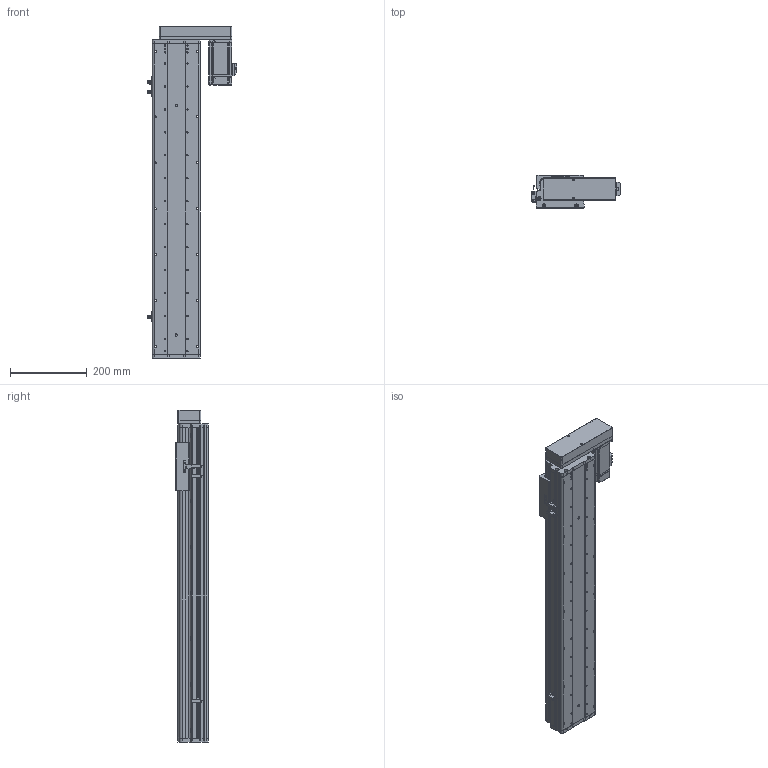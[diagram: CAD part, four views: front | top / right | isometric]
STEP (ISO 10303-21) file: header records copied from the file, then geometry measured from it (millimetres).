
FILE_DESCRIPTION (( 'STEP AP214' ), '1' );
FILE_NAME ('KSD125S-S600-MR-CM.STEP', '2017-10-21T08:58:19', ( '微软用户' ), ( '微软中国' ), 'SwSTEP 2.0', 'SolidWorks 2014', '' );
FILE_SCHEMA (( 'AUTOMOTIVE_DESIGN' ));
Length unit declared in the file: millimetre
Products named in the file (16): 覜茼え68遵圉猾敕; U倰嫖萇假蚾璃; U倰嫖萇EEㄜSX672; ヶ傷啣-125遵耀郪; KSD125-賑雄釱1; 125-帣傷啣1; KSD125S-S600-MR-CM; HTPA30S3M150_A_H6_a佪裝蚚; HTPA30S3M150_A_H6_a萇儂蚚; 125宽马达安装板连板左右折丝杆; 125悵誘欶酘衵殏; KSD125S-600俴最佪裝滅鳥裔; KSD125S-600俴最佪裝菁啣; MHMD042G1CA_2_03; 拸萇儂釱滅袉菜; 拸萇儂釱滅袉菜-1
Assembly tree (19 placements, depth 2):
  KSD125S-S600-MR-CM
    125-帣傷啣1
    KSD125-賑雄釱1
    ヶ傷啣-125遵耀郪
    U倰嫖萇EEㄜSX672  x3
    U倰嫖萇假蚾璃  x3
    覜茼え68遵圉猾敕
    拸萇儂釱滅袉菜-1
    拸萇儂釱滅袉菜
    MHMD042G1CA_2_03
    KSD125S-600俴最佪裝菁啣
    KSD125S-600俴最佪裝滅鳥裔
    125悵誘欶酘衵殏
    125宽马达安装板连板左右折丝杆
    HTPA30S3M150_A_H6_a萇儂蚚
    HTPA30S3M150_A_H6_a佪裝蚚
Bounding box: 234.2 x 86 x 867.5 mm (x, y, z)
Volume: 2909294.8 mm3; surface area: 1001080.7 mm2
Topology: 18 solids, 21 shells, 2201 faces, 6381 edges, 4209 vertices
Faces by surface type: cylinder 1378, plane 682, cone 119, bspline 22
Entity records: 77603 total; most frequent: CARTESIAN_POINT 15775, DIRECTION 12115, ORIENTED_EDGE 11270, EDGE_CURVE 5713, AXIS2_PLACEMENT_3D 4683, VERTEX_POINT 3801, VECTOR 2749, LINE 2749
